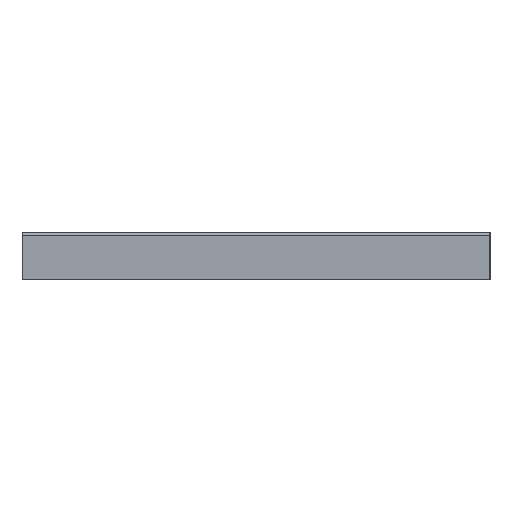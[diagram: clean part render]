
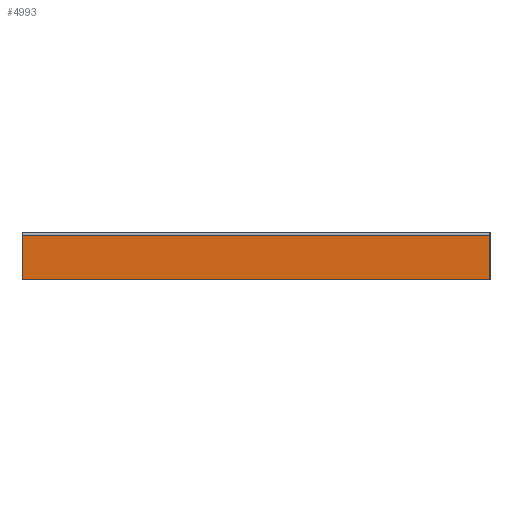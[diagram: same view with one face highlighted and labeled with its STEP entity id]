
A CAD part, left-side view. The second image highlights one B-rep face of the part: STEP entity #4993.
In plain terms, the highlighted planar face has unit normal (-1, 0, 0).
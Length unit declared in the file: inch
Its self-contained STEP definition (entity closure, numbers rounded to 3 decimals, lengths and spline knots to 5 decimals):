
#15 = DIRECTION ( 'NONE',  ( 0., 0., -1. ) ) ;
#72 = VERTEX_POINT ( 'NONE', #6924 ) ;
#525 = DIRECTION ( 'NONE',  ( 0., -1., 0. ) ) ;
#567 = PLANE ( 'NONE',  #2437 ) ;
#926 = DIRECTION ( 'NONE',  ( 0., 1., 0. ) ) ;
#948 = EDGE_CURVE ( 'NONE', #6558, #2041, #2645, .T. ) ;
#995 = EDGE_CURVE ( 'NONE', #2041, #72, #1852, .T. ) ;
#1197 = DIRECTION ( 'NONE',  ( 0., 1., 0. ) ) ;
#1721 = VECTOR ( 'NONE', #926, 39.37008 ) ;
#1794 = ORIENTED_EDGE ( 'NONE', *, *, #7100, .F. ) ;
#1816 = EDGE_LOOP ( 'NONE', ( #1794, #6203, #4268, #6906 ) ) ;
#1852 = LINE ( 'NONE', #5618, #4468 ) ;
#2041 = VERTEX_POINT ( 'NONE', #3120 ) ;
#2206 = CARTESIAN_POINT ( 'NONE',  ( 0., 0., 0. ) ) ;
#2437 = AXIS2_PLACEMENT_3D ( 'NONE', #5088, #2924, #1197 ) ;
#2645 = LINE ( 'NONE', #3131, #1721 ) ;
#2924 = DIRECTION ( 'NONE',  ( 1., 0., 0. ) ) ;
#3000 = DIRECTION ( 'NONE',  ( 0., 0., -1. ) ) ;
#3120 = CARTESIAN_POINT ( 'NONE',  ( 0., 0., 0.215 ) ) ;
#3131 = CARTESIAN_POINT ( 'NONE',  ( 0., 0., 0.215 ) ) ;
#3163 = VECTOR ( 'NONE', #15, 39.37008 ) ;
#3485 = FACE_OUTER_BOUND ( 'NONE', #1816, .T. ) ;
#3497 = VECTOR ( 'NONE', #525, 39.37008 ) ;
#4096 = LINE ( 'NONE', #6922, #3163 ) ;
#4152 = CARTESIAN_POINT ( 'NONE',  ( 0., -2.28, 0.215 ) ) ;
#4268 = ORIENTED_EDGE ( 'NONE', *, *, #995, .T. ) ;
#4468 = VECTOR ( 'NONE', #3000, 39.37008 ) ;
#4479 = EDGE_CURVE ( 'NONE', #72, #4897, #5630, .T. ) ;
#4897 = VERTEX_POINT ( 'NONE', #6433 ) ;
#4993 = ADVANCED_FACE ( 'NONE', ( #3485 ), #567, .F. ) ;
#5088 = CARTESIAN_POINT ( 'NONE',  ( 0., 0., 0.04 ) ) ;
#5618 = CARTESIAN_POINT ( 'NONE',  ( 0., 0., 0.04 ) ) ;
#5630 = LINE ( 'NONE', #2206, #3497 ) ;
#6203 = ORIENTED_EDGE ( 'NONE', *, *, #948, .T. ) ;
#6433 = CARTESIAN_POINT ( 'NONE',  ( 0., -2.28, 0. ) ) ;
#6558 = VERTEX_POINT ( 'NONE', #4152 ) ;
#6906 = ORIENTED_EDGE ( 'NONE', *, *, #4479, .T. ) ;
#6922 = CARTESIAN_POINT ( 'NONE',  ( 0., -2.28, 0.04 ) ) ;
#6924 = CARTESIAN_POINT ( 'NONE',  ( 0., 0., 0. ) ) ;
#7100 = EDGE_CURVE ( 'NONE', #6558, #4897, #4096, .T. ) ;
